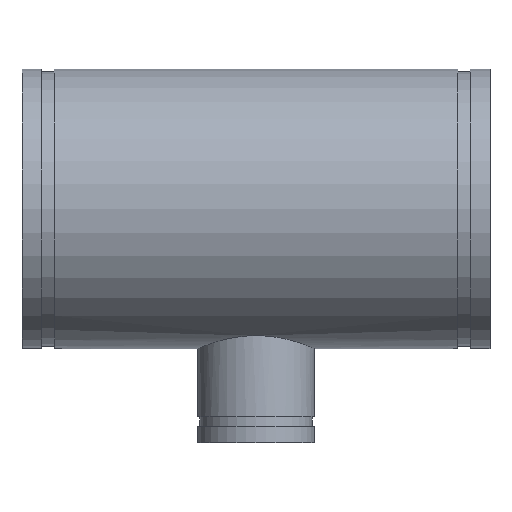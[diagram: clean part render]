
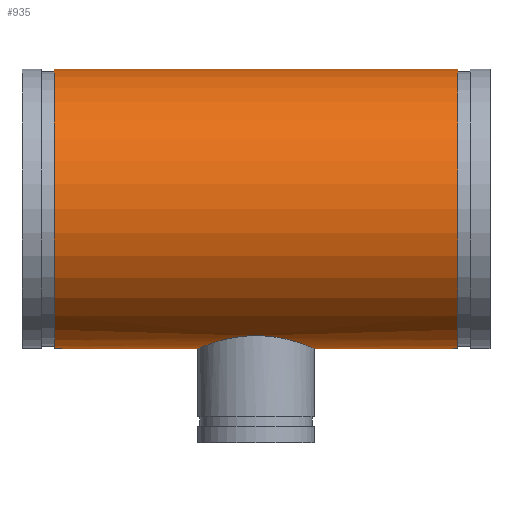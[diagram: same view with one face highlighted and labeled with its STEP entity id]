
A CAD part, top view. The second image highlights one B-rep face of the part: STEP entity #935.
In plain terms, the highlighted cylindrical face has radius 136.525 mm (diameter 273.05 mm), a full revolution.
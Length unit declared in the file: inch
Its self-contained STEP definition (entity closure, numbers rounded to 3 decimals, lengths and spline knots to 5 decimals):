
#61=FACE_BOUND('',#222,.T.);
#67=B_SPLINE_CURVE_WITH_KNOTS('',3,(#1807,#1808,#1809,#1810,#1811,#1812,
#1813,#1814,#1815,#1816,#1817,#1818,#1819,#1820,#1821,#1822,#1823,#1824),
 .UNSPECIFIED.,.F.,.F.,(4,2,2,2,2,2,2,2,4),(0.,1.09182,2.18364,
3.27546,4.36728,5.45776,6.54823,7.63871,
8.72918),.UNSPECIFIED.);
#68=B_SPLINE_CURVE_WITH_KNOTS('',3,(#1825,#1826,#1827,#1828,#1829,#1830,
#1831,#1832,#1833,#1834,#1835,#1836,#1837,#1838,#1839,#1840,#1841,#1842,
#1843,#1844,#1845,#1846,#1847,#1848,#1849,#1850,#1851,#1852,#1853,#1854,
#1855,#1856,#1857,#1858,#1859,#1860,#1861,#1862,#1863,#1864,#1865,#1866,
#1867,#1868,#1869,#1870,#1871,#1872,#1873,#1874),.UNSPECIFIED.,.F.,.F.,
(4,2,2,2,2,2,2,2,2,2,2,2,2,2,2,2,2,2,2,2,2,2,2,2,4),(8.72918,9.81966,
10.91013,12.0006,13.09108,14.1829,15.27472,
16.36654,17.45836,18.55018,19.642,20.73382,
21.82565,22.91612,24.00659,25.09707,26.18754,
27.27802,28.36849,29.45897,30.54944,31.64126,
32.73308,33.8249,34.91672),.UNSPECIFIED.);
#81=CYLINDRICAL_SURFACE('',#1104,5.375);
#103=LINE('',#1804,#125);
#125=VECTOR('',#1432,5.375);
#171=FACE_OUTER_BOUND('',#221,.T.);
#221=EDGE_LOOP('',(#814,#815,#816,#817));
#222=EDGE_LOOP('',(#818,#819));
#326=CIRCLE('',#1087,5.375);
#337=CIRCLE('',#1103,5.375);
#424=VERTEX_POINT('',#1772);
#435=VERTEX_POINT('',#1801);
#436=VERTEX_POINT('',#1805);
#437=VERTEX_POINT('',#1806);
#552=EDGE_CURVE('',#424,#424,#326,.T.);
#565=EDGE_CURVE('',#435,#435,#337,.T.);
#566=EDGE_CURVE('',#435,#424,#103,.T.);
#567=EDGE_CURVE('',#436,#437,#67,.T.);
#568=EDGE_CURVE('',#437,#436,#68,.T.);
#814=ORIENTED_EDGE('',*,*,#565,.T.);
#815=ORIENTED_EDGE('',*,*,#566,.T.);
#816=ORIENTED_EDGE('',*,*,#552,.T.);
#817=ORIENTED_EDGE('',*,*,#566,.F.);
#818=ORIENTED_EDGE('',*,*,#567,.T.);
#819=ORIENTED_EDGE('',*,*,#568,.T.);
#935=ADVANCED_FACE('',(#171,#61),#81,.T.);
#1087=AXIS2_PLACEMENT_3D('',#1773,#1394,#1395);
#1103=AXIS2_PLACEMENT_3D('',#1802,#1428,#1429);
#1104=AXIS2_PLACEMENT_3D('',#1803,#1430,#1431);
#1394=DIRECTION('center_axis',(-1.,0.,0.));
#1395=DIRECTION('ref_axis',(0.,-1.,0.));
#1428=DIRECTION('center_axis',(1.,0.,0.));
#1429=DIRECTION('ref_axis',(0.,-1.,0.));
#1430=DIRECTION('center_axis',(-1.,0.,0.));
#1431=DIRECTION('ref_axis',(0.,-1.,0.));
#1432=DIRECTION('',(1.,0.,0.));
#1772=CARTESIAN_POINT('',(7.75,5.375,0.));
#1773=CARTESIAN_POINT('Origin',(7.75,0.,0.));
#1801=CARTESIAN_POINT('',(-7.75,5.375,0.));
#1802=CARTESIAN_POINT('Origin',(-7.75,0.,0.));
#1803=CARTESIAN_POINT('Origin',(9.,0.,0.));
#1804=CARTESIAN_POINT('',(9.,5.375,0.));
#1805=CARTESIAN_POINT('',(0.,-4.88141,-2.25));
#1806=CARTESIAN_POINT('',(-2.25,-5.375,0.));
#1807=CARTESIAN_POINT('Ctrl Pts',(0.,-4.88141,-2.25));
#1808=CARTESIAN_POINT('Ctrl Pts',(-0.14328,-4.88141,
-2.25));
#1809=CARTESIAN_POINT('Ctrl Pts',(-0.29079,-4.88789,
-2.23609));
#1810=CARTESIAN_POINT('Ctrl Pts',(-0.58297,-4.91394,
-2.17826));
#1811=CARTESIAN_POINT('Ctrl Pts',(-0.72765,-4.93346,
-2.13435));
#1812=CARTESIAN_POINT('Ctrl Pts',(-1.00418,-4.98176,-2.01905));
#1813=CARTESIAN_POINT('Ctrl Pts',(-1.13628,-5.01052,-1.94756));
#1814=CARTESIAN_POINT('Ctrl Pts',(-1.3802,-5.0714,-1.78303));
#1815=CARTESIAN_POINT('Ctrl Pts',(-1.49202,-5.10347,-1.68996));
#1816=CARTESIAN_POINT('Ctrl Pts',(-1.68984,-5.16477,-1.49214));
#1817=CARTESIAN_POINT('Ctrl Pts',(-1.78289,-5.19624,-1.38038));
#1818=CARTESIAN_POINT('Ctrl Pts',(-1.94748,-5.25499,-1.13644));
#1819=CARTESIAN_POINT('Ctrl Pts',(-2.01902,-5.28221,-1.00425));
#1820=CARTESIAN_POINT('Ctrl Pts',(-2.1344,-5.32738,-0.72754));
#1821=CARTESIAN_POINT('Ctrl Pts',(-2.17832,-5.34532,-0.58277));
#1822=CARTESIAN_POINT('Ctrl Pts',(-2.23613,-5.36914,-0.29056));
#1823=CARTESIAN_POINT('Ctrl Pts',(-2.25,-5.375,-0.14311));
#1824=CARTESIAN_POINT('Ctrl Pts',(-2.25,-5.375,0.));
#1825=CARTESIAN_POINT('Ctrl Pts',(-2.25,-5.375,0.));
#1826=CARTESIAN_POINT('Ctrl Pts',(-2.25,-5.375,0.14311));
#1827=CARTESIAN_POINT('Ctrl Pts',(-2.23613,-5.36914,0.29056));
#1828=CARTESIAN_POINT('Ctrl Pts',(-2.17832,-5.34532,0.58277));
#1829=CARTESIAN_POINT('Ctrl Pts',(-2.1344,-5.32738,0.72754));
#1830=CARTESIAN_POINT('Ctrl Pts',(-2.01902,-5.28221,1.00425));
#1831=CARTESIAN_POINT('Ctrl Pts',(-1.94748,-5.25499,1.13644));
#1832=CARTESIAN_POINT('Ctrl Pts',(-1.78289,-5.19624,1.38038));
#1833=CARTESIAN_POINT('Ctrl Pts',(-1.68984,-5.16477,1.49214));
#1834=CARTESIAN_POINT('Ctrl Pts',(-1.49202,-5.10347,1.68996));
#1835=CARTESIAN_POINT('Ctrl Pts',(-1.3802,-5.0714,1.78303));
#1836=CARTESIAN_POINT('Ctrl Pts',(-1.13628,-5.01052,1.94756));
#1837=CARTESIAN_POINT('Ctrl Pts',(-1.00418,-4.98176,2.01905));
#1838=CARTESIAN_POINT('Ctrl Pts',(-0.72765,-4.93346,
2.13435));
#1839=CARTESIAN_POINT('Ctrl Pts',(-0.58297,-4.91394,2.17826));
#1840=CARTESIAN_POINT('Ctrl Pts',(-0.29079,-4.88789,
2.23609));
#1841=CARTESIAN_POINT('Ctrl Pts',(-0.14328,-4.88141,
2.25));
#1842=CARTESIAN_POINT('Ctrl Pts',(0.14328,-4.88141,2.25));
#1843=CARTESIAN_POINT('Ctrl Pts',(0.29079,-4.88789,2.23609));
#1844=CARTESIAN_POINT('Ctrl Pts',(0.58297,-4.91394,2.17826));
#1845=CARTESIAN_POINT('Ctrl Pts',(0.72765,-4.93346,2.13435));
#1846=CARTESIAN_POINT('Ctrl Pts',(1.00418,-4.98176,2.01905));
#1847=CARTESIAN_POINT('Ctrl Pts',(1.13628,-5.01052,1.94756));
#1848=CARTESIAN_POINT('Ctrl Pts',(1.3802,-5.0714,1.78303));
#1849=CARTESIAN_POINT('Ctrl Pts',(1.49202,-5.10347,1.68996));
#1850=CARTESIAN_POINT('Ctrl Pts',(1.68984,-5.16477,1.49214));
#1851=CARTESIAN_POINT('Ctrl Pts',(1.78289,-5.19624,1.38038));
#1852=CARTESIAN_POINT('Ctrl Pts',(1.94748,-5.25499,1.13644));
#1853=CARTESIAN_POINT('Ctrl Pts',(2.01902,-5.28221,1.00425));
#1854=CARTESIAN_POINT('Ctrl Pts',(2.1344,-5.32738,0.72754));
#1855=CARTESIAN_POINT('Ctrl Pts',(2.17832,-5.34532,0.58277));
#1856=CARTESIAN_POINT('Ctrl Pts',(2.23613,-5.36914,0.29056));
#1857=CARTESIAN_POINT('Ctrl Pts',(2.25,-5.375,0.14311));
#1858=CARTESIAN_POINT('Ctrl Pts',(2.25,-5.375,-0.14311));
#1859=CARTESIAN_POINT('Ctrl Pts',(2.23613,-5.36914,-0.29056));
#1860=CARTESIAN_POINT('Ctrl Pts',(2.17832,-5.34532,-0.58277));
#1861=CARTESIAN_POINT('Ctrl Pts',(2.1344,-5.32738,-0.72754));
#1862=CARTESIAN_POINT('Ctrl Pts',(2.01902,-5.28221,-1.00425));
#1863=CARTESIAN_POINT('Ctrl Pts',(1.94748,-5.25499,-1.13644));
#1864=CARTESIAN_POINT('Ctrl Pts',(1.78289,-5.19624,-1.38038));
#1865=CARTESIAN_POINT('Ctrl Pts',(1.68984,-5.16477,-1.49214));
#1866=CARTESIAN_POINT('Ctrl Pts',(1.49202,-5.10347,-1.68996));
#1867=CARTESIAN_POINT('Ctrl Pts',(1.3802,-5.0714,-1.78303));
#1868=CARTESIAN_POINT('Ctrl Pts',(1.13628,-5.01052,-1.94756));
#1869=CARTESIAN_POINT('Ctrl Pts',(1.00418,-4.98176,-2.01905));
#1870=CARTESIAN_POINT('Ctrl Pts',(0.72765,-4.93346,-2.13435));
#1871=CARTESIAN_POINT('Ctrl Pts',(0.58297,-4.91394,-2.17826));
#1872=CARTESIAN_POINT('Ctrl Pts',(0.29079,-4.88789,-2.23609));
#1873=CARTESIAN_POINT('Ctrl Pts',(0.14328,-4.88141,-2.25));
#1874=CARTESIAN_POINT('Ctrl Pts',(0.,-4.88141,
-2.25));
